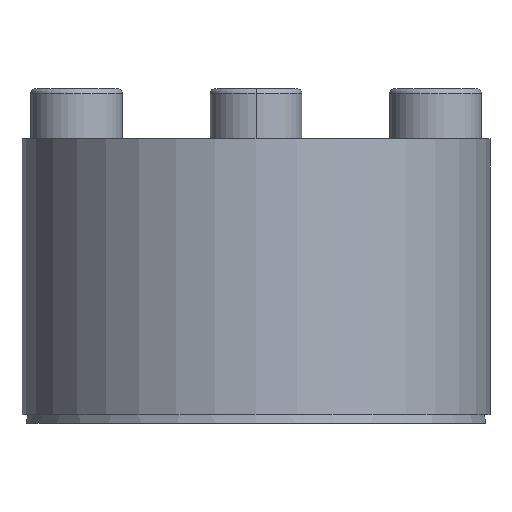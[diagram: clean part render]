
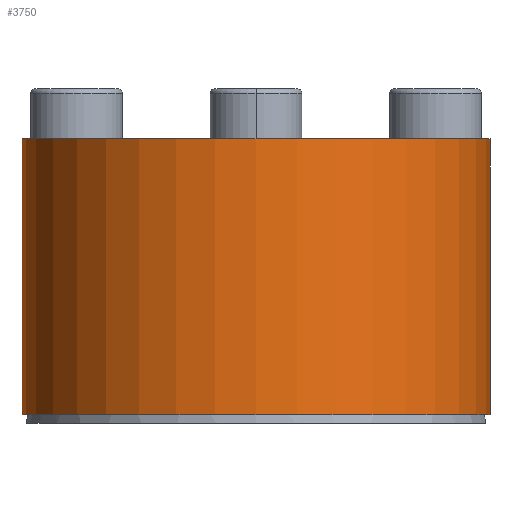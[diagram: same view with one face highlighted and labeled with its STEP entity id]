
A CAD part, front view. The second image highlights one B-rep face of the part: STEP entity #3750.
In plain terms, the highlighted cylindrical face has radius 14 mm (diameter 28 mm), a partial arc.
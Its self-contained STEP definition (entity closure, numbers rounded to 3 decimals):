
#279 = ORIENTED_EDGE ( 'NONE', *, *, #1488, .F. ) ;
#469 = LINE ( 'NONE', #757, #1939 ) ;
#506 = DIRECTION ( 'NONE',  ( 0., 0., 1. ) ) ;
#529 = AXIS2_PLACEMENT_3D ( 'NONE', #5390, #5551, #5121 ) ;
#738 = EDGE_CURVE ( 'NONE', #3564, #2877, #469, .T. ) ;
#757 = CARTESIAN_POINT ( 'NONE',  ( 14., 0., 0.509 ) ) ;
#774 = DIRECTION ( 'NONE',  ( 0., 0., 1. ) ) ;
#1262 = CARTESIAN_POINT ( 'NONE',  ( 14., 0., 17.009 ) ) ;
#1488 = EDGE_CURVE ( 'NONE', #3564, #2215, #5044, .T. ) ;
#1700 = CARTESIAN_POINT ( 'NONE',  ( 0., 0., 17.009 ) ) ;
#1939 = VECTOR ( 'NONE', #774, 1000. ) ;
#2066 = CIRCLE ( 'NONE', #2960, 14. ) ;
#2215 = VERTEX_POINT ( 'NONE', #3329 ) ;
#2257 = DIRECTION ( 'NONE',  ( -1., 0., 0. ) ) ;
#2715 = DIRECTION ( 'NONE',  ( 1., 0., 0. ) ) ;
#2759 = FACE_OUTER_BOUND ( 'NONE', #4700, .T. ) ;
#2877 = VERTEX_POINT ( 'NONE', #1262 ) ;
#2960 = AXIS2_PLACEMENT_3D ( 'NONE', #1700, #5532, #2257 ) ;
#3193 = DIRECTION ( 'NONE',  ( 0., 0., 1. ) ) ;
#3246 = CARTESIAN_POINT ( 'NONE',  ( 0., 0., 0.509 ) ) ;
#3329 = CARTESIAN_POINT ( 'NONE',  ( -14., 0., 0.509 ) ) ;
#3524 = CYLINDRICAL_SURFACE ( 'NONE', #6239, 14. ) ;
#3564 = VERTEX_POINT ( 'NONE', #4193 ) ;
#3680 = EDGE_CURVE ( 'NONE', #2215, #6405, #6748, .T. ) ;
#3745 = CARTESIAN_POINT ( 'NONE',  ( -14., 0., 0.509 ) ) ;
#3750 = ADVANCED_FACE ( 'NONE', ( #2759 ), #3524, .T. ) ;
#4193 = CARTESIAN_POINT ( 'NONE',  ( 14., 0., 0.509 ) ) ;
#4700 = EDGE_LOOP ( 'NONE', ( #6125, #279, #7067, #5451 ) ) ;
#5044 = CIRCLE ( 'NONE', #529, 14. ) ;
#5121 = DIRECTION ( 'NONE',  ( -1., 0., 0. ) ) ;
#5390 = CARTESIAN_POINT ( 'NONE',  ( 0., 0., 0.509 ) ) ;
#5451 = ORIENTED_EDGE ( 'NONE', *, *, #6771, .T. ) ;
#5532 = DIRECTION ( 'NONE',  ( 0., 0., -1. ) ) ;
#5551 = DIRECTION ( 'NONE',  ( 0., 0., -1. ) ) ;
#5702 = CARTESIAN_POINT ( 'NONE',  ( -14., 0., 17.009 ) ) ;
#6125 = ORIENTED_EDGE ( 'NONE', *, *, #3680, .F. ) ;
#6239 = AXIS2_PLACEMENT_3D ( 'NONE', #3246, #506, #2715 ) ;
#6405 = VERTEX_POINT ( 'NONE', #5702 ) ;
#6588 = VECTOR ( 'NONE', #3193, 1000. ) ;
#6748 = LINE ( 'NONE', #3745, #6588 ) ;
#6771 = EDGE_CURVE ( 'NONE', #2877, #6405, #2066, .T. ) ;
#7067 = ORIENTED_EDGE ( 'NONE', *, *, #738, .T. ) ;
